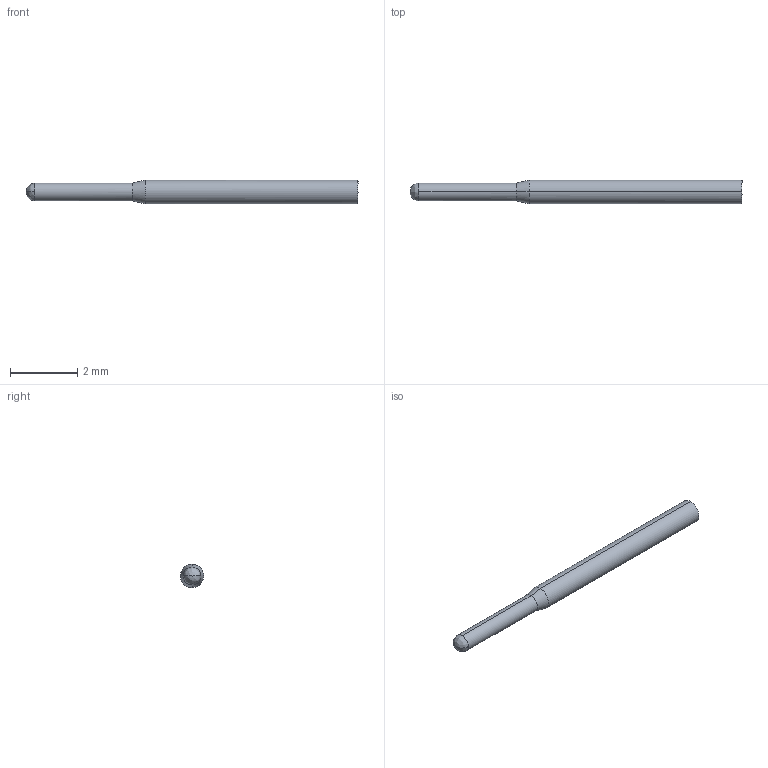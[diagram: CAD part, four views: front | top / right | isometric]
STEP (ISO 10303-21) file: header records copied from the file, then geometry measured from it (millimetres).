
FILE_DESCRIPTION (( 'STEP AP214' ), '1' );
FILE_NAME ('RM4T.STEP', '2025-05-01T10:00:22', ( '' ), ( '' ), 'SwSTEP 2.0', 'SolidWorks 2024', '' );
FILE_SCHEMA (( 'AUTOMOTIVE_DESIGN' ));
Length unit declared in the file: inch
Products named in the file (1): RM4T
Bounding box: 9.91 x 0.7 x 0.7 mm (x, y, z)
Volume: 1.3 mm3; surface area: 35.3 mm2
Topology: 1 solids, 1 shells, 17 faces, 40 edges, 22 vertices
Faces by surface type: bspline 17
Entity records: 843 total; most frequent: CARTESIAN_POINT 391, ORIENTED_EDGE 72, EDGE_CURVE 36, VERTEX_POINT 22, LENGTH_MEASURE_WITH_UNIT 19, DIMENSIONAL_EXPONENTS 19, UNCERTAINTY_MEASURE_WITH_UNIT 19, PRESENTATION_LAYER_ASSIGNMENT 18
